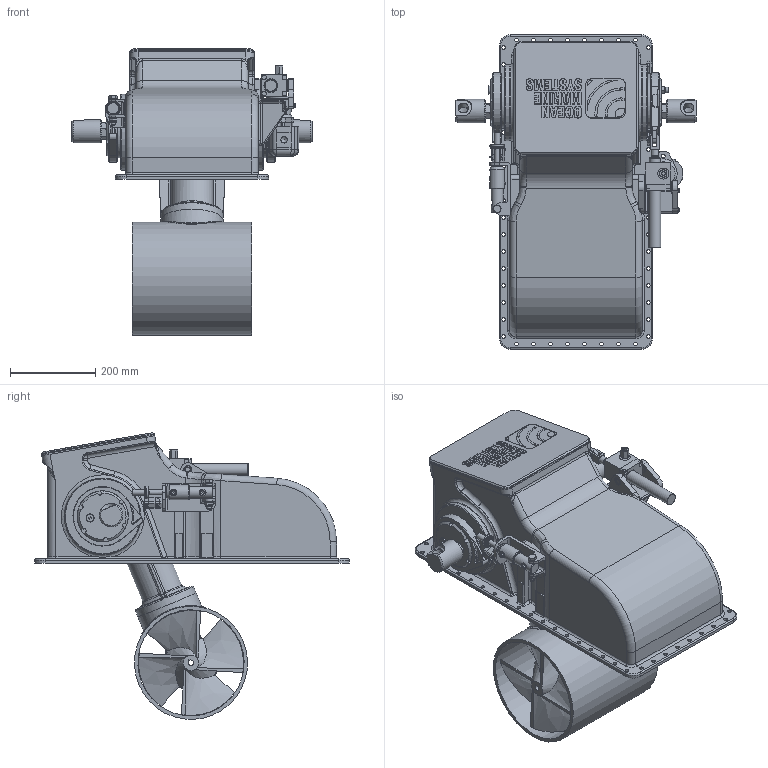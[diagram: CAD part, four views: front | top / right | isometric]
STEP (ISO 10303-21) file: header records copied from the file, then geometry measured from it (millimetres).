
FILE_DESCRIPTION(/* description */ (''),/* implementation_level */ '2;1');
FILE_NAME(/* name */ 'Q:\THRUSTERS\THRUSTER SALES & SUPPORT DOCS\THRUSTER Sales\H-S\H-0250-S\H-0250-S Deployed.stp',/* time_stamp */ '2021-01-26T11:30:10+00:00',/* author */ ('Barney.Webborn'),/* organization */ (''),/* preprocessor_version */ 'ST-DEVELOPER v17.2',/* originating_system */ 'Autodesk Inventor 2019',/* authorisation */ '');
FILE_SCHEMA (('AUTOMOTIVE_DESIGN { 1 0 10303 214 3 1 1 }'));
Length unit declared in the file: millimetre
Products named in the file (1): H-0250-S_Shrinkwrap_2
Bounding box: 565.5 x 740 x 674.44 mm (x, y, z)
Volume: 15048845.9 mm3; surface area: 3225541.9 mm2
Topology: 7 solids, 7 shells, 2468 faces, 6283 edges, 3962 vertices
Faces by surface type: plane 977, cylinder 743, bspline 353, cone 198, torus 166, sphere 31
Full cylindrical faces by diameter (mm): 3 x6, 4 x2, 5 x2, 5.5 x2, 8.5 x54, 8.566 x4, 10 x10, 11 x4, 11.157 x1, 11.429 x1, 11.445 x1, 11.8 x4, 12 x7, 12.7 x1, 13 x1, 13.157 x1, 13.333 x1, 14 x2, 14.95 x2, 15.6 x2, 16 x3, 18 x2, 18.7 x1, 19 x1, 19.05 x2, 20 x3, 23 x1, 24.5 x6, 26 x3, 26.25 x2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
Entity records: 120917 total; most frequent: CARTESIAN_POINT 59688, ORIENTED_EDGE 12488, DIRECTION 11772, EDGE_CURVE 6244, AXIS2_PLACEMENT_3D 4404, VERTEX_POINT 3962, LINE 2964, VECTOR 2964
